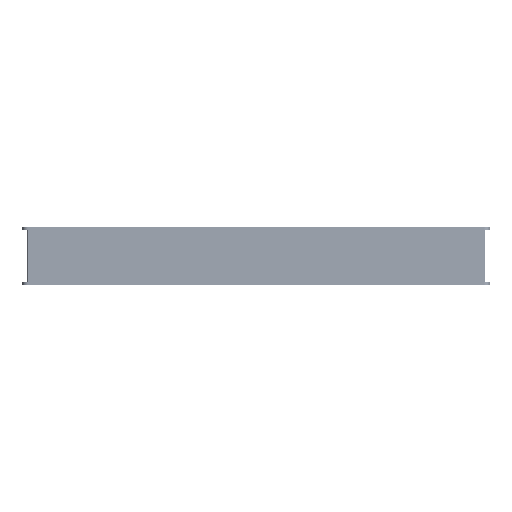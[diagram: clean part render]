
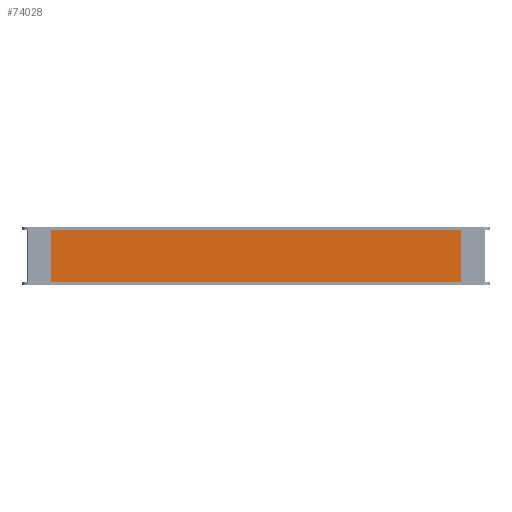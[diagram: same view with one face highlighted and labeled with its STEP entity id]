
A CAD part, left-side view. The second image highlights one B-rep face of the part: STEP entity #74028.
In plain terms, the highlighted planar face has unit normal (-1, 0, 0).
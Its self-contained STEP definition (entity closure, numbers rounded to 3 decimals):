
#5861 = LINE ( 'NONE', #30029, #42180 ) ;
#9544 = LINE ( 'NONE', #18666, #9570 ) ;
#9570 = VECTOR ( 'NONE', #42326, 1000. ) ;
#10307 = CARTESIAN_POINT ( 'NONE',  ( -584.868, 409.517, 92.5 ) ) ;
#10609 = CARTESIAN_POINT ( 'NONE',  ( -584.868, 409.517, 92.5 ) ) ;
#12908 = VECTOR ( 'NONE', #28852, 1000. ) ;
#15795 = CARTESIAN_POINT ( 'NONE',  ( -584.868, -356.483, 92.5 ) ) ;
#18666 = CARTESIAN_POINT ( 'NONE',  ( -584.868, 409.517, 92.5 ) ) ;
#19211 = LINE ( 'NONE', #10609, #12908 ) ;
#22497 = ORIENTED_EDGE ( 'NONE', *, *, #40003, .F. ) ;
#24812 = VECTOR ( 'NONE', #48584, 1000. ) ;
#28852 = DIRECTION ( 'NONE',  ( 0., -1., 0. ) ) ;
#29497 = DIRECTION ( 'NONE',  ( 0., 1., 0. ) ) ;
#30029 = CARTESIAN_POINT ( 'NONE',  ( -584.868, 409.517, 2.5 ) ) ;
#30437 = PLANE ( 'NONE',  #33547 ) ;
#33547 = AXIS2_PLACEMENT_3D ( 'NONE', #63224, #49743, #83607 ) ;
#36258 = VERTEX_POINT ( 'NONE', #57539 ) ;
#40003 = EDGE_CURVE ( 'NONE', #72226, #36258, #5861, .T. ) ;
#40379 = EDGE_CURVE ( 'NONE', #36258, #89952, #9544, .T. ) ;
#40527 = LINE ( 'NONE', #15795, #24812 ) ;
#42180 = VECTOR ( 'NONE', #29497, 1000. ) ;
#42326 = DIRECTION ( 'NONE',  ( 0., 0., 1. ) ) ;
#43277 = VERTEX_POINT ( 'NONE', #63918 ) ;
#46706 = ORIENTED_EDGE ( 'NONE', *, *, #73845, .F. ) ;
#48584 = DIRECTION ( 'NONE',  ( 0., 0., -1. ) ) ;
#49743 = DIRECTION ( 'NONE',  ( -1., 0., 0. ) ) ;
#55158 = FACE_OUTER_BOUND ( 'NONE', #79610, .T. ) ;
#57539 = CARTESIAN_POINT ( 'NONE',  ( -584.868, 409.517, 2.5 ) ) ;
#63224 = CARTESIAN_POINT ( 'NONE',  ( -584.868, 26.517, 47.5 ) ) ;
#63918 = CARTESIAN_POINT ( 'NONE',  ( -584.868, -356.483, 92.5 ) ) ;
#65441 = EDGE_CURVE ( 'NONE', #43277, #72226, #40527, .T. ) ;
#72226 = VERTEX_POINT ( 'NONE', #90690 ) ;
#73845 = EDGE_CURVE ( 'NONE', #89952, #43277, #19211, .T. ) ;
#74028 = ADVANCED_FACE ( 'NONE', ( #55158 ), #30437, .T. ) ;
#79610 = EDGE_LOOP ( 'NONE', ( #83555, #46706, #87890, #22497 ) ) ;
#83555 = ORIENTED_EDGE ( 'NONE', *, *, #65441, .F. ) ;
#83607 = DIRECTION ( 'NONE',  ( 0., 1., 0. ) ) ;
#87890 = ORIENTED_EDGE ( 'NONE', *, *, #40379, .F. ) ;
#89952 = VERTEX_POINT ( 'NONE', #10307 ) ;
#90690 = CARTESIAN_POINT ( 'NONE',  ( -584.868, -356.483, 2.5 ) ) ;
